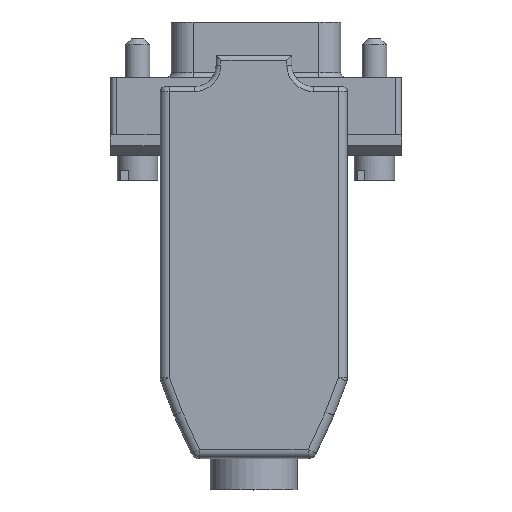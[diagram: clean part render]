
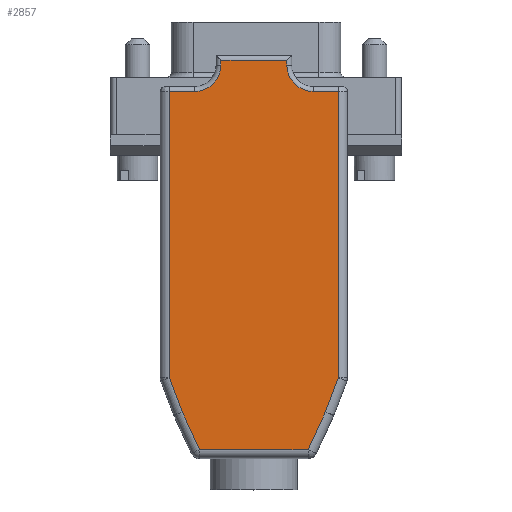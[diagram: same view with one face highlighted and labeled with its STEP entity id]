
A CAD part, top view. The second image highlights one B-rep face of the part: STEP entity #2857.
In plain terms, the highlighted planar face has unit normal (0, 0, 1).
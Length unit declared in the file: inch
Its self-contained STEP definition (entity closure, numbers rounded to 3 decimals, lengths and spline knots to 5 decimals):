
#230=DIRECTION('',(1.,0.,0.));
#231=VECTOR('',#230,0.105);
#232=CARTESIAN_POINT('',(0.845,0.18,0.0805));
#233=LINE('',#232,#231);
#234=DIRECTION('',(0.,-1.,0.));
#235=VECTOR('',#234,1.19312);
#236=CARTESIAN_POINT('',(0.95,0.18,0.0805));
#237=LINE('',#236,#235);
#238=DIRECTION('',(-0.355,-0.935,0.));
#239=VECTOR('',#238,0.15229);
#240=CARTESIAN_POINT('',(0.95,-1.01312,0.0805));
#241=LINE('',#240,#239);
#242=DIRECTION('',(-0.419,-0.908,0.));
#243=VECTOR('',#242,0.17292);
#244=CARTESIAN_POINT('',(0.8959,-1.15547,0.0805));
#245=LINE('',#244,#243);
#246=DIRECTION('',(-1.,0.,0.));
#247=VECTOR('',#246,0.45199);
#248=CARTESIAN_POINT('',(0.8235,-1.3125,0.0805));
#249=LINE('',#248,#247);
#250=DIRECTION('',(0.419,-0.908,0.));
#251=VECTOR('',#250,0.17292);
#252=CARTESIAN_POINT('',(0.2991,-1.15547,0.0805));
#253=LINE('',#252,#251);
#254=DIRECTION('',(0.355,-0.935,0.));
#255=VECTOR('',#254,0.15229);
#256=CARTESIAN_POINT('',(0.245,-1.01312,0.0805));
#257=LINE('',#256,#255);
#258=DIRECTION('',(0.,-1.,0.));
#259=VECTOR('',#258,1.19312);
#260=CARTESIAN_POINT('',(0.245,0.18,0.0805));
#261=LINE('',#260,#259);
#262=DIRECTION('',(1.,0.,0.));
#263=VECTOR('',#262,0.105);
#264=CARTESIAN_POINT('',(0.245,0.18,0.0805));
#265=LINE('',#264,#263);
#266=CARTESIAN_POINT('',(0.35,0.29,0.0805));
#267=DIRECTION('',(0.,0.,1.));
#268=DIRECTION('',(0.,-1.,0.));
#269=AXIS2_PLACEMENT_3D('',#266,#267,#268);
#271=DIRECTION('',(0.,1.,0.));
#272=VECTOR('',#271,0.02);
#273=CARTESIAN_POINT('',(0.46,0.29,0.0805));
#274=LINE('',#273,#272);
#275=DIRECTION('',(-1.,0.,0.));
#276=VECTOR('',#275,0.275);
#277=CARTESIAN_POINT('',(0.735,0.31,0.0805));
#278=LINE('',#277,#276);
#279=DIRECTION('',(0.,-1.,0.));
#280=VECTOR('',#279,0.02);
#281=CARTESIAN_POINT('',(0.735,0.31,0.0805));
#282=LINE('',#281,#280);
#283=CARTESIAN_POINT('',(0.845,0.29,0.0805));
#284=DIRECTION('',(0.,0.,1.));
#285=DIRECTION('',(-1.,0.,0.));
#286=AXIS2_PLACEMENT_3D('',#283,#284,#285);
#2109=CARTESIAN_POINT('',(0.245,-1.01312,0.0805));
#2110=CARTESIAN_POINT('',(0.2991,-1.15547,0.0805));
#2111=VERTEX_POINT('',#2109);
#2112=VERTEX_POINT('',#2110);
#2117=CARTESIAN_POINT('',(0.3715,-1.3125,0.0805));
#2118=VERTEX_POINT('',#2117);
#2127=CARTESIAN_POINT('',(0.95,-1.01312,0.0805));
#2128=CARTESIAN_POINT('',(0.8959,-1.15547,0.0805));
#2129=VERTEX_POINT('',#2127);
#2130=VERTEX_POINT('',#2128);
#2135=CARTESIAN_POINT('',(0.8235,-1.3125,0.0805));
#2136=VERTEX_POINT('',#2135);
#2471=CARTESIAN_POINT('',(0.95,0.18,0.0805));
#2472=VERTEX_POINT('',#2471);
#2475=CARTESIAN_POINT('',(0.845,0.18,0.0805));
#2476=VERTEX_POINT('',#2475);
#2479=CARTESIAN_POINT('',(0.735,0.29,0.0805));
#2480=VERTEX_POINT('',#2479);
#2483=CARTESIAN_POINT('',(0.735,0.31,0.0805));
#2484=VERTEX_POINT('',#2483);
#2487=CARTESIAN_POINT('',(0.46,0.31,0.0805));
#2488=VERTEX_POINT('',#2487);
#2499=CARTESIAN_POINT('',(0.245,0.18,0.0805));
#2500=VERTEX_POINT('',#2499);
#2503=CARTESIAN_POINT('',(0.35,0.18,0.0805));
#2504=VERTEX_POINT('',#2503);
#2507=CARTESIAN_POINT('',(0.46,0.29,0.0805));
#2508=VERTEX_POINT('',#2507);
#2823=CARTESIAN_POINT('',(0.5975,-1.26,0.0805));
#2824=DIRECTION('',(0.,0.,1.));
#2825=DIRECTION('',(1.,0.,0.));
#2826=AXIS2_PLACEMENT_3D('',#2823,#2824,#2825);
#2827=PLANE('',#2826);
#2829=ORIENTED_EDGE('',*,*,#2828,.T.);
#2831=ORIENTED_EDGE('',*,*,#2830,.T.);
#2833=ORIENTED_EDGE('',*,*,#2832,.T.);
#2835=ORIENTED_EDGE('',*,*,#2834,.T.);
#2837=ORIENTED_EDGE('',*,*,#2836,.T.);
#2839=ORIENTED_EDGE('',*,*,#2838,.F.);
#2840=ORIENTED_EDGE('',*,*,#2813,.F.);
#2842=ORIENTED_EDGE('',*,*,#2841,.F.);
#2844=ORIENTED_EDGE('',*,*,#2843,.T.);
#2846=ORIENTED_EDGE('',*,*,#2845,.T.);
#2848=ORIENTED_EDGE('',*,*,#2847,.T.);
#2850=ORIENTED_EDGE('',*,*,#2849,.F.);
#2852=ORIENTED_EDGE('',*,*,#2851,.T.);
#2854=ORIENTED_EDGE('',*,*,#2853,.T.);
#2855=EDGE_LOOP('',(#2829,#2831,#2833,#2835,#2837,#2839,#2840,#2842,#2844,#2846,
#2848,#2850,#2852,#2854));
#2856=FACE_OUTER_BOUND('',#2855,.F.);
#2857=ADVANCED_FACE('',(#2856),#2827,.T.);
#270=CIRCLE('',#269,0.11);
#287=CIRCLE('',#286,0.11);
#2813=EDGE_CURVE('',#2111,#2112,#257,.T.);
#2828=EDGE_CURVE('',#2476,#2472,#233,.T.);
#2830=EDGE_CURVE('',#2472,#2129,#237,.T.);
#2832=EDGE_CURVE('',#2129,#2130,#241,.T.);
#2834=EDGE_CURVE('',#2130,#2136,#245,.T.);
#2836=EDGE_CURVE('',#2136,#2118,#249,.T.);
#2838=EDGE_CURVE('',#2112,#2118,#253,.T.);
#2841=EDGE_CURVE('',#2500,#2111,#261,.T.);
#2843=EDGE_CURVE('',#2500,#2504,#265,.T.);
#2845=EDGE_CURVE('',#2504,#2508,#270,.T.);
#2847=EDGE_CURVE('',#2508,#2488,#274,.T.);
#2849=EDGE_CURVE('',#2484,#2488,#278,.T.);
#2851=EDGE_CURVE('',#2484,#2480,#282,.T.);
#2853=EDGE_CURVE('',#2480,#2476,#287,.T.);
